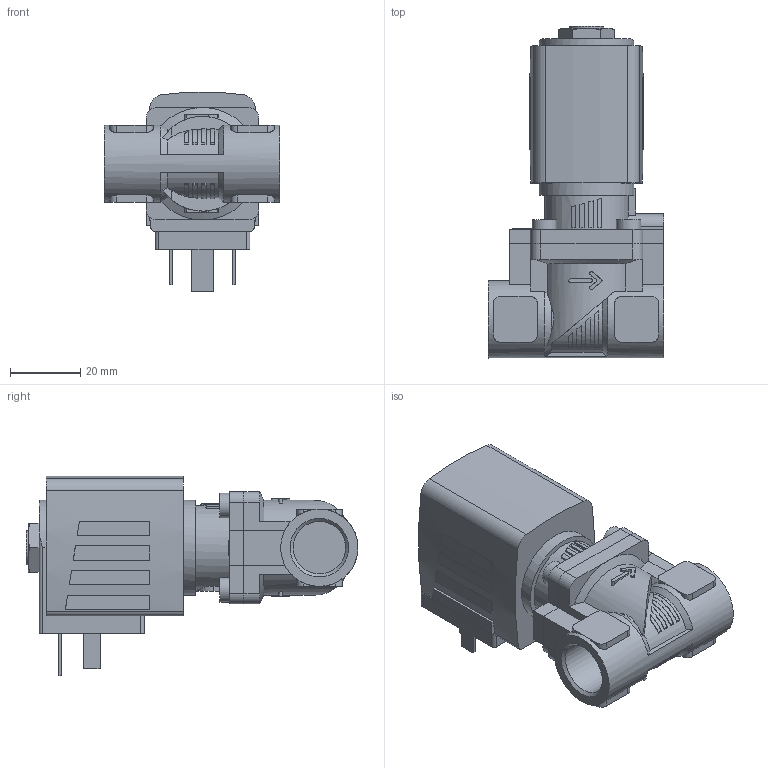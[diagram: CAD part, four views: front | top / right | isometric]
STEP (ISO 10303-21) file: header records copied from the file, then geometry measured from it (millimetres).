
FILE_DESCRIPTION(/* description */ ('STEP AP214'),/* implementation_level */ '2;1');
FILE_NAME(/* name */ '6281-387757-2_2-Way_Solenoid_Valve__Servo-assisted__General_Purpose',/* time_stamp */ '2024-06-21T14:53:25+02:00',/* author */ ('License CC BY-ND 4.0'),/* organization */ ('CADENAS'),/* preprocessor_version */ 'ST-DEVELOPER v19.3',/* originating_system */ 'PARTsolutions',/* authorisation */ ' ');
FILE_SCHEMA (('AUTOMOTIVE_DESIGN {1 0 10303 214 3 1 1}'));
Length unit declared in the file: millimetre
Products named in the file (4): 6281-387757-2/2-Way Solenoid Valve, Servo-assisted, General Purpose; 5281ev100VA2/2-Wege-Magnetventil mit Servomembran-Deckel   ; 6213-10G3/8VA-Gehaeuse-; AC10ex-5NA38-Plan-Coil
Assembly tree (3 placements, depth 2):
  6281-387757-2/2-Way Solenoid Valve, Servo-assisted, General Purpose
    5281ev100VA2/2-Wege-Magnetventil mit Servomembran-Deckel   
    6213-10G3/8VA-Gehaeuse-
    AC10ex-5NA38-Plan-Coil
Bounding box: 50 x 94.5 x 56.91 mm (x, y, z)
Volume: 91051.7 mm3; surface area: 22254.9 mm2
Topology: 3 solids, 3 shells, 333 faces, 843 edges, 556 vertices
Faces by surface type: plane 231, cylinder 87, cone 15
Full cylindrical faces by diameter (mm): 2.013 x1, 7 x4, 9.74 x1, 14.95 x2, 22 x1, 27 x1
Entity records: 11236 total; most frequent: CARTESIAN_POINT 1966, DIRECTION 1670, ORIENTED_EDGE 1636, EDGE_CURVE 818, AXIS2_PLACEMENT_3D 587, VERTEX_POINT 547, LINE 496, VECTOR 496
